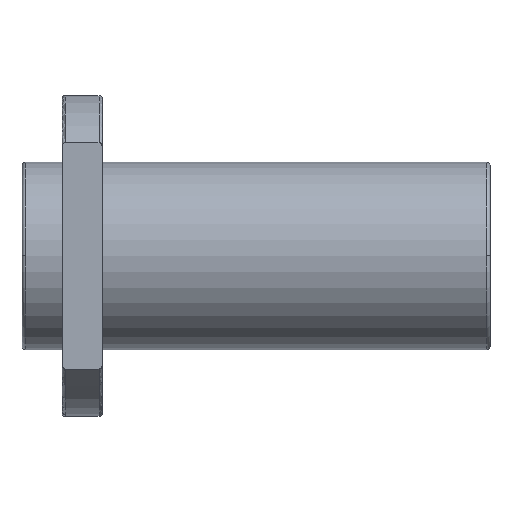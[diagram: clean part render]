
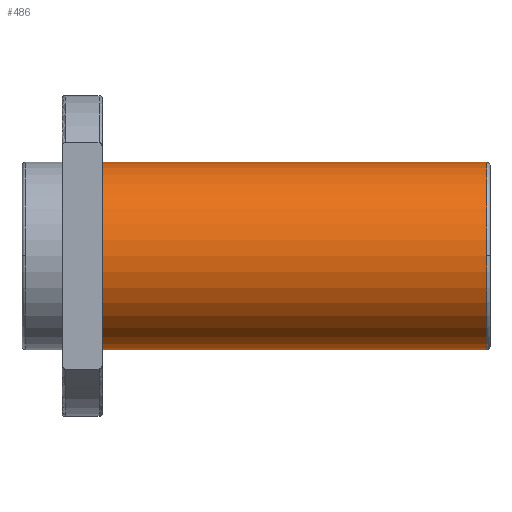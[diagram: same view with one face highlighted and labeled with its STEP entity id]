
A CAD part, top view. The second image highlights one B-rep face of the part: STEP entity #486.
In plain terms, the highlighted cylindrical face has radius 14 mm (diameter 28 mm), a partial arc.
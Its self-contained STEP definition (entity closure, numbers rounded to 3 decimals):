
#335 = TOROIDAL_SURFACE('',#336,13.52,0.48);
#336 = AXIS2_PLACEMENT_3D('',#337,#338,#339);
#337 = CARTESIAN_POINT('',(69.52,0.,0.));
#338 = DIRECTION('',(1.,0.,0.));
#339 = DIRECTION('',(0.,0.,-1.));
#347 = TOROIDAL_SURFACE('',#348,13.52,0.48);
#348 = AXIS2_PLACEMENT_3D('',#349,#350,#351);
#349 = CARTESIAN_POINT('',(69.52,0.,0.));
#350 = DIRECTION('',(1.,0.,0.));
#351 = DIRECTION('',(0.,0.,-1.));
#360 = VERTEX_POINT('',#361);
#361 = CARTESIAN_POINT('',(69.52,14.,0.));
#376 = CYLINDRICAL_SURFACE('',#377,14.);
#377 = AXIS2_PLACEMENT_3D('',#378,#379,#380);
#378 = CARTESIAN_POINT('',(40.76,0.,0.));
#379 = DIRECTION('',(1.,0.,0.));
#380 = DIRECTION('',(-0.,1.,0.));
#388 = EDGE_CURVE('',#360,#389,#391,.T.);
#389 = VERTEX_POINT('',#390);
#390 = CARTESIAN_POINT('',(69.52,0.,14.));
#391 = SURFACE_CURVE('',#392,(#397,#404),.PCURVE_S1.);
#392 = CIRCLE('',#393,14.);
#393 = AXIS2_PLACEMENT_3D('',#394,#395,#396);
#394 = CARTESIAN_POINT('',(69.52,0.,0.));
#395 = DIRECTION('',(1.,0.,0.));
#396 = DIRECTION('',(-0.,1.,0.));
#397 = PCURVE('',#335,#398);
#398 = DEFINITIONAL_REPRESENTATION('',(#399),#403);
#399 = LINE('',#400,#401);
#400 = CARTESIAN_POINT('',(1.571,0.));
#401 = VECTOR('',#402,1.);
#402 = DIRECTION('',(1.,0.));
#403 = ( GEOMETRIC_REPRESENTATION_CONTEXT(2) 
PARAMETRIC_REPRESENTATION_CONTEXT() REPRESENTATION_CONTEXT('2D SPACE',''
  ) );
#404 = PCURVE('',#405,#410);
#405 = CYLINDRICAL_SURFACE('',#406,14.);
#406 = AXIS2_PLACEMENT_3D('',#407,#408,#409);
#407 = CARTESIAN_POINT('',(40.76,0.,0.));
#408 = DIRECTION('',(1.,0.,0.));
#409 = DIRECTION('',(-0.,1.,0.));
#410 = DEFINITIONAL_REPRESENTATION('',(#411),#415);
#411 = LINE('',#412,#413);
#412 = CARTESIAN_POINT('',(0.,28.76));
#413 = VECTOR('',#414,1.);
#414 = DIRECTION('',(1.,0.));
#415 = ( GEOMETRIC_REPRESENTATION_CONTEXT(2) 
PARAMETRIC_REPRESENTATION_CONTEXT() REPRESENTATION_CONTEXT('2D SPACE',''
  ) );
#486 = ADVANCED_FACE('',(#487),#405,.T.);
#487 = FACE_BOUND('',#488,.T.);
#488 = EDGE_LOOP('',(#489,#512,#541,#564,#586));
#489 = ORIENTED_EDGE('',*,*,#490,.F.);
#490 = EDGE_CURVE('',#491,#360,#493,.T.);
#491 = VERTEX_POINT('',#492);
#492 = CARTESIAN_POINT('',(12.,14.,0.));
#493 = SURFACE_CURVE('',#494,(#498,#505),.PCURVE_S1.);
#494 = LINE('',#495,#496);
#495 = CARTESIAN_POINT('',(40.76,14.,0.));
#496 = VECTOR('',#497,1.);
#497 = DIRECTION('',(1.,0.,0.));
#498 = PCURVE('',#405,#499);
#499 = DEFINITIONAL_REPRESENTATION('',(#500),#504);
#500 = LINE('',#501,#502);
#501 = CARTESIAN_POINT('',(0.,0.));
#502 = VECTOR('',#503,1.);
#503 = DIRECTION('',(0.,1.));
#504 = ( GEOMETRIC_REPRESENTATION_CONTEXT(2) 
PARAMETRIC_REPRESENTATION_CONTEXT() REPRESENTATION_CONTEXT('2D SPACE',''
  ) );
#505 = PCURVE('',#376,#506);
#506 = DEFINITIONAL_REPRESENTATION('',(#507),#511);
#507 = LINE('',#508,#509);
#508 = CARTESIAN_POINT('',(6.283,0.));
#509 = VECTOR('',#510,1.);
#510 = DIRECTION('',(0.,1.));
#511 = ( GEOMETRIC_REPRESENTATION_CONTEXT(2) 
PARAMETRIC_REPRESENTATION_CONTEXT() REPRESENTATION_CONTEXT('2D SPACE',''
  ) );
#512 = ORIENTED_EDGE('',*,*,#513,.T.);
#513 = EDGE_CURVE('',#491,#514,#516,.T.);
#514 = VERTEX_POINT('',#515);
#515 = CARTESIAN_POINT('',(12.,-14.,0.));
#516 = SURFACE_CURVE('',#517,(#522,#529),.PCURVE_S1.);
#517 = CIRCLE('',#518,14.);
#518 = AXIS2_PLACEMENT_3D('',#519,#520,#521);
#519 = CARTESIAN_POINT('',(12.,0.,0.));
#520 = DIRECTION('',(1.,0.,0.));
#521 = DIRECTION('',(-0.,1.,0.));
#522 = PCURVE('',#405,#523);
#523 = DEFINITIONAL_REPRESENTATION('',(#524),#528);
#524 = LINE('',#525,#526);
#525 = CARTESIAN_POINT('',(0.,-28.76));
#526 = VECTOR('',#527,1.);
#527 = DIRECTION('',(1.,0.));
#528 = ( GEOMETRIC_REPRESENTATION_CONTEXT(2) 
PARAMETRIC_REPRESENTATION_CONTEXT() REPRESENTATION_CONTEXT('2D SPACE',''
  ) );
#529 = PCURVE('',#530,#535);
#530 = PLANE('',#531);
#531 = AXIS2_PLACEMENT_3D('',#532,#533,#534);
#532 = CARTESIAN_POINT('',(12.,18.76,0.));
#533 = DIRECTION('',(1.,0.,0.));
#534 = DIRECTION('',(0.,1.,0.));
#535 = DEFINITIONAL_REPRESENTATION('',(#536),#540);
#536 = CIRCLE('',#537,14.);
#537 = AXIS2_PLACEMENT_2D('',#538,#539);
#538 = CARTESIAN_POINT('',(-18.76,0.));
#539 = DIRECTION('',(1.,0.));
#540 = ( GEOMETRIC_REPRESENTATION_CONTEXT(2) 
PARAMETRIC_REPRESENTATION_CONTEXT() REPRESENTATION_CONTEXT('2D SPACE',''
  ) );
#541 = ORIENTED_EDGE('',*,*,#542,.F.);
#542 = EDGE_CURVE('',#543,#514,#545,.T.);
#543 = VERTEX_POINT('',#544);
#544 = CARTESIAN_POINT('',(69.52,-14.,0.));
#545 = SURFACE_CURVE('',#546,(#550,#557),.PCURVE_S1.);
#546 = LINE('',#547,#548);
#547 = CARTESIAN_POINT('',(40.76,-14.,0.));
#548 = VECTOR('',#549,1.);
#549 = DIRECTION('',(-1.,-0.,-0.));
#550 = PCURVE('',#405,#551);
#551 = DEFINITIONAL_REPRESENTATION('',(#552),#556);
#552 = LINE('',#553,#554);
#553 = CARTESIAN_POINT('',(3.142,0.));
#554 = VECTOR('',#555,1.);
#555 = DIRECTION('',(0.,-1.));
#556 = ( GEOMETRIC_REPRESENTATION_CONTEXT(2) 
PARAMETRIC_REPRESENTATION_CONTEXT() REPRESENTATION_CONTEXT('2D SPACE',''
  ) );
#557 = PCURVE('',#376,#558);
#558 = DEFINITIONAL_REPRESENTATION('',(#559),#563);
#559 = LINE('',#560,#561);
#560 = CARTESIAN_POINT('',(3.142,0.));
#561 = VECTOR('',#562,1.);
#562 = DIRECTION('',(0.,-1.));
#563 = ( GEOMETRIC_REPRESENTATION_CONTEXT(2) 
PARAMETRIC_REPRESENTATION_CONTEXT() REPRESENTATION_CONTEXT('2D SPACE',''
  ) );
#564 = ORIENTED_EDGE('',*,*,#565,.F.);
#565 = EDGE_CURVE('',#389,#543,#566,.T.);
#566 = SURFACE_CURVE('',#567,(#572,#579),.PCURVE_S1.);
#567 = CIRCLE('',#568,14.);
#568 = AXIS2_PLACEMENT_3D('',#569,#570,#571);
#569 = CARTESIAN_POINT('',(69.52,0.,0.));
#570 = DIRECTION('',(1.,0.,0.));
#571 = DIRECTION('',(-0.,1.,0.));
#572 = PCURVE('',#405,#573);
#573 = DEFINITIONAL_REPRESENTATION('',(#574),#578);
#574 = LINE('',#575,#576);
#575 = CARTESIAN_POINT('',(0.,28.76));
#576 = VECTOR('',#577,1.);
#577 = DIRECTION('',(1.,0.));
#578 = ( GEOMETRIC_REPRESENTATION_CONTEXT(2) 
PARAMETRIC_REPRESENTATION_CONTEXT() REPRESENTATION_CONTEXT('2D SPACE',''
  ) );
#579 = PCURVE('',#347,#580);
#580 = DEFINITIONAL_REPRESENTATION('',(#581),#585);
#581 = LINE('',#582,#583);
#582 = CARTESIAN_POINT('',(1.571,0.));
#583 = VECTOR('',#584,1.);
#584 = DIRECTION('',(1.,0.));
#585 = ( GEOMETRIC_REPRESENTATION_CONTEXT(2) 
PARAMETRIC_REPRESENTATION_CONTEXT() REPRESENTATION_CONTEXT('2D SPACE',''
  ) );
#586 = ORIENTED_EDGE('',*,*,#388,.F.);
